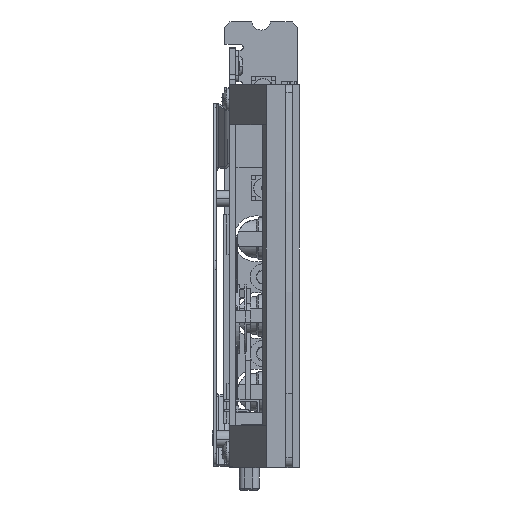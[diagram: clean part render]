
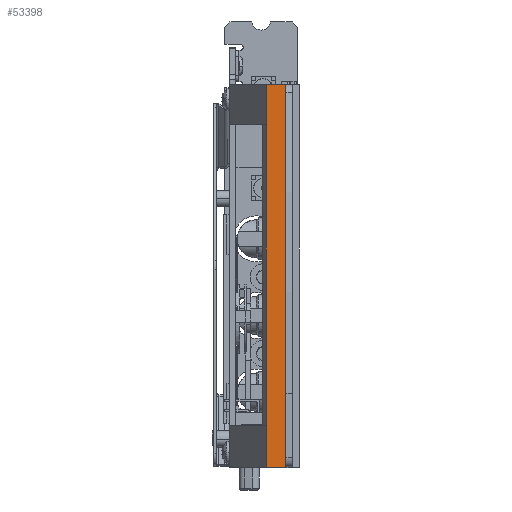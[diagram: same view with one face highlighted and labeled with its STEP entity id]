
A CAD part, front view. The second image highlights one B-rep face of the part: STEP entity #53398.
In plain terms, the highlighted planar face has unit normal (0, -1, 0).
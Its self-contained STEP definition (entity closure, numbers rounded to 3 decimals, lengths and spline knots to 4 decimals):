
#10164=DIRECTION('',(1.,0.,0.));
#10165=VECTOR('',#10164,0.198);
#10166=CARTESIAN_POINT('',(0.364,-12.579,-0.185));
#10167=LINE('',#10166,#10165);
#10257=DIRECTION('',(1.,0.,0.));
#10258=VECTOR('',#10257,0.198);
#10259=CARTESIAN_POINT('',(0.364,-12.579,-4.01));
#10260=LINE('',#10259,#10258);
#10333=DIRECTION('',(0.,0.,1.));
#10334=VECTOR('',#10333,3.825);
#10335=CARTESIAN_POINT('',(0.364,-12.579,-4.01));
#10336=LINE('',#10335,#10334);
#10352=DIRECTION('',(0.,0.,1.));
#10353=VECTOR('',#10352,3.825);
#10354=CARTESIAN_POINT('',(0.562,-12.579,-4.01));
#10355=LINE('',#10354,#10353);
#41592=CARTESIAN_POINT('',(0.364,-12.579,-4.01));
#41593=VERTEX_POINT('',#41592);
#41594=CARTESIAN_POINT('',(0.562,-12.579,-4.01));
#41595=VERTEX_POINT('',#41594);
#41612=CARTESIAN_POINT('',(0.364,-12.579,-0.185));
#41613=VERTEX_POINT('',#41612);
#41614=CARTESIAN_POINT('',(0.562,-12.579,-0.185));
#41615=VERTEX_POINT('',#41614);
#53386=CARTESIAN_POINT('',(0.364,-12.579,-4.01));
#53387=DIRECTION('',(0.,-1.,0.));
#53388=DIRECTION('',(1.,0.,0.));
#53389=AXIS2_PLACEMENT_3D('',#53386,#53387,#53388);
#53390=PLANE('',#53389);
#53391=ORIENTED_EDGE('',*,*,#53319,.F.);
#53392=ORIENTED_EDGE('',*,*,#53364,.T.);
#53393=ORIENTED_EDGE('',*,*,#53112,.T.);
#53395=ORIENTED_EDGE('',*,*,#53394,.F.);
#53396=EDGE_LOOP('',(#53391,#53392,#53393,#53395));
#53397=FACE_OUTER_BOUND('',#53396,.F.);
#53398=ADVANCED_FACE('',(#53397),#53390,.T.);
#53112=EDGE_CURVE('',#41613,#41615,#10167,.T.);
#53319=EDGE_CURVE('',#41593,#41595,#10260,.T.);
#53364=EDGE_CURVE('',#41593,#41613,#10336,.T.);
#53394=EDGE_CURVE('',#41595,#41615,#10355,.T.);
